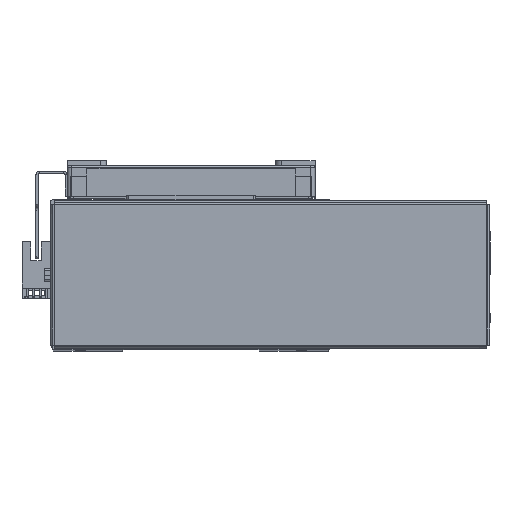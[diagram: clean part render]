
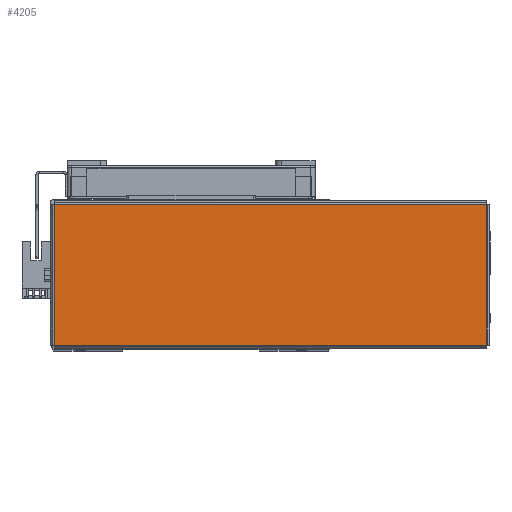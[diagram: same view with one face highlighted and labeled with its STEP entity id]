
A CAD part, top view. The second image highlights one B-rep face of the part: STEP entity #4205.
In plain terms, the highlighted planar face has unit normal (0, 0, 1) as drawn and (0, -1, 0) by its records, which use the part's own axes.
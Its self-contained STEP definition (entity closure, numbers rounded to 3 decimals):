
#2735 = VERTEX_POINT ( 'NONE', #53959 ) ;
#2936 = VERTEX_POINT ( 'NONE', #37168 ) ;
#4205 = ADVANCED_FACE ( 'NONE', ( #18787 ), #26368, .F. ) ;
#7804 = CARTESIAN_POINT ( 'NONE',  ( 103.763, -1., 33.763 ) ) ;
#12834 = CARTESIAN_POINT ( 'NONE',  ( -103.763, -1., -33.763 ) ) ;
#15533 = VECTOR ( 'NONE', #46753, 1000. ) ;
#15553 = LINE ( 'NONE', #46731, #15593 ) ;
#15579 = LINE ( 'NONE', #46771, #15533 ) ;
#15593 = VECTOR ( 'NONE', #46715, 1000. ) ;
#15682 = VECTOR ( 'NONE', #46831, 1000. ) ;
#15686 = VECTOR ( 'NONE', #46803, 1000. ) ;
#15702 = LINE ( 'NONE', #46825, #15682 ) ;
#15719 = LINE ( 'NONE', #46794, #15686 ) ;
#18787 = FACE_OUTER_BOUND ( 'NONE', #47776, .T. ) ;
#25510 = VERTEX_POINT ( 'NONE', #7804 ) ;
#26340 = CARTESIAN_POINT ( 'NONE',  ( 0., -1., 0. ) ) ;
#26349 = DIRECTION ( 'NONE',  ( 0., 1., 0. ) ) ;
#26368 = PLANE ( 'NONE',  #44903 ) ;
#26369 = DIRECTION ( 'NONE',  ( 0., 0., 1. ) ) ;
#37168 = CARTESIAN_POINT ( 'NONE',  ( -103.763, -1., 33.763 ) ) ;
#44903 = AXIS2_PLACEMENT_3D ( 'NONE', #26340, #26349, #26369 ) ;
#46715 = DIRECTION ( 'NONE',  ( -1., 0., 0. ) ) ;
#46731 = CARTESIAN_POINT ( 'NONE',  ( 103.793, -1., 33.763 ) ) ;
#46753 = DIRECTION ( 'NONE',  ( 0., 0., -1. ) ) ;
#46771 = CARTESIAN_POINT ( 'NONE',  ( -103.763, -1., 33.793 ) ) ;
#46794 = CARTESIAN_POINT ( 'NONE',  ( -103.793, -1., -33.763 ) ) ;
#46803 = DIRECTION ( 'NONE',  ( 1., 0., 0. ) ) ;
#46825 = CARTESIAN_POINT ( 'NONE',  ( 103.763, -1., -33.793 ) ) ;
#46831 = DIRECTION ( 'NONE',  ( 0., 0., 1. ) ) ;
#47776 = EDGE_LOOP ( 'NONE', ( #56309, #56291, #56311, #56288 ) ) ;
#53959 = CARTESIAN_POINT ( 'NONE',  ( 103.763, -1., -33.763 ) ) ;
#56288 = ORIENTED_EDGE ( 'NONE', *, *, #60269, .T. ) ;
#56291 = ORIENTED_EDGE ( 'NONE', *, *, #60230, .T. ) ;
#56309 = ORIENTED_EDGE ( 'NONE', *, *, #60206, .T. ) ;
#56311 = ORIENTED_EDGE ( 'NONE', *, *, #60273, .T. ) ;
#57647 = VERTEX_POINT ( 'NONE', #12834 ) ;
#60206 = EDGE_CURVE ( 'NONE', #25510, #2936, #15553, .T. ) ;
#60230 = EDGE_CURVE ( 'NONE', #2936, #57647, #15579, .T. ) ;
#60269 = EDGE_CURVE ( 'NONE', #2735, #25510, #15702, .T. ) ;
#60273 = EDGE_CURVE ( 'NONE', #57647, #2735, #15719, .T. ) ;
